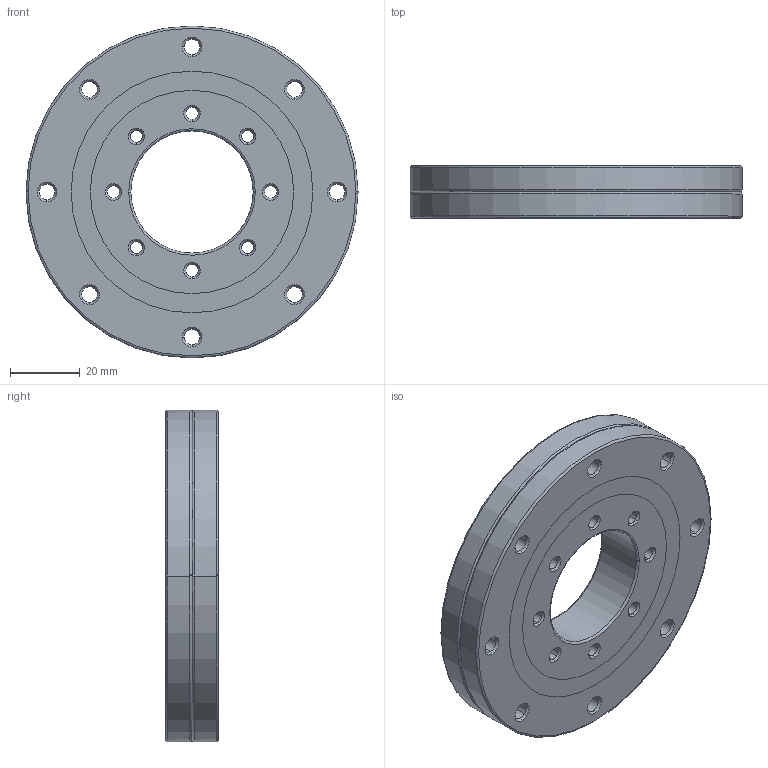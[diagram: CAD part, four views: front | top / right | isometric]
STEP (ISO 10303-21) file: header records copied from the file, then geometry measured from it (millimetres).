
FILE_DESCRIPTION(('no description'),'unknown implementation level');
FILE_NAME('CRBD03515A_40.stp',' ',('HIWIN GmbH'),('CADClick - KiM GmbH - www.kimweb.de'),'unknown preprocess','ACIS','unknown authorization');
FILE_SCHEMA(('automotive_design'));
Length unit declared in the file: millimetre
Products named in the file (29): CRBD03515A_1; CRBD03515A_2; CRBD03515A_3; CRBD03515A_4; CRBD03515A_5; CRBD03515A_6; CRBD03515A_7; CRBD03515A_8; CRBD03515A_9; CRBD03515A_10; CRBD03515A_11; CRBD03515A_12; CRBD03515A_13; CRBD03515A_14; CRBD03515A_15; CRBD03515A_16; CRBD03515A_17; CRBD03515A_18; CRBD03515A_19; CRBD03515A_20; CRBD03515A_21; CRBD03515A_22; CRBD03515A_23; CRBD03515A_24; CRBD03515A_25; CRBD03515A_26; CRBD03515A_27; CRBD03515A_28; CRBD03515A
Bounding box: 95 x 15 x 95 mm (x, y, z)
Volume: 73061.6 mm3; surface area: 37052.6 mm2
Topology: 5 solids, 29 shells, 318 faces, 816 edges, 540 vertices
Faces by surface type: cone 168, cylinder 100, plane 26, torus 24
Entity records: 19073 total; most frequent: DIRECTION 2042, CARTESIAN_POINT 1703, ORIENTED_EDGE 1536, STYLED_ITEM 1511, PRESENTATION_STYLE_ASSIGNMENT 1511, COLOUR_RGB 1511, AXIS2_PLACEMENT_3D 879, EDGE_CURVE 816
